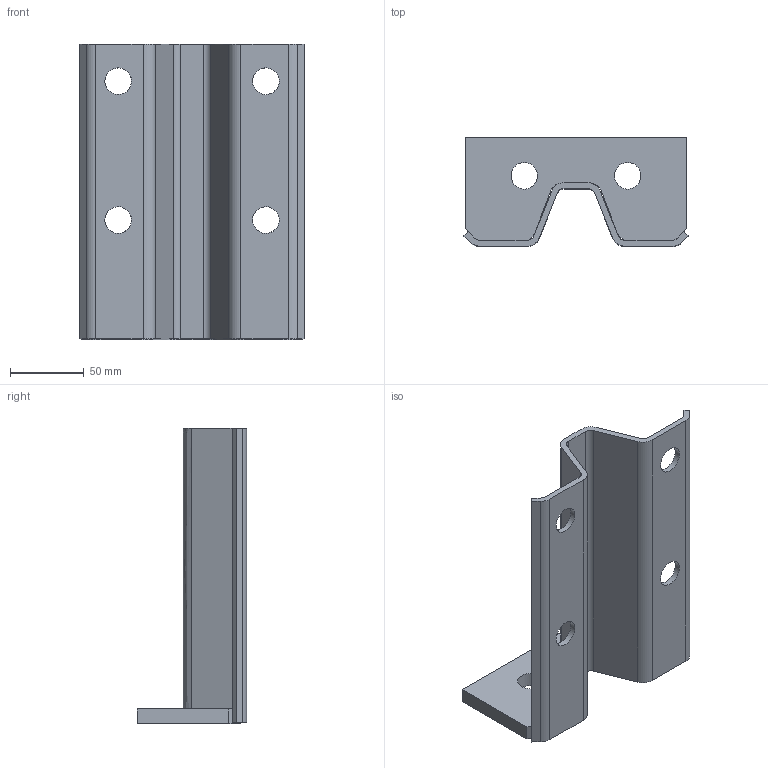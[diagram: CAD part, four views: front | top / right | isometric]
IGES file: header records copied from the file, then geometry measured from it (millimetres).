
Global section: file name: B245W70; native system: Autodesk RealDWG; preprocessor: Autodesk Translation Framework DWG producer (atf_dwg_producer); organization: unknown; date: 20230703.111124; units: centimetre
Bounding box: 151.72 x 74 x 200 mm (x, y, z)
Volume: 238671.1 mm3; surface area: 103480.3 mm2
Topology: 1 solids, 1 shells, 54 faces, 166 edges, 110 vertices
Faces by surface type: bspline 54
